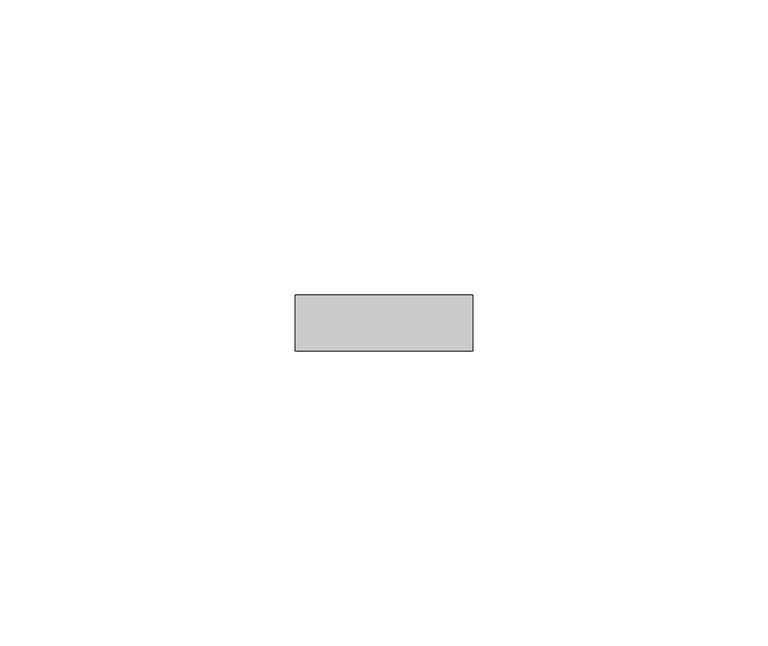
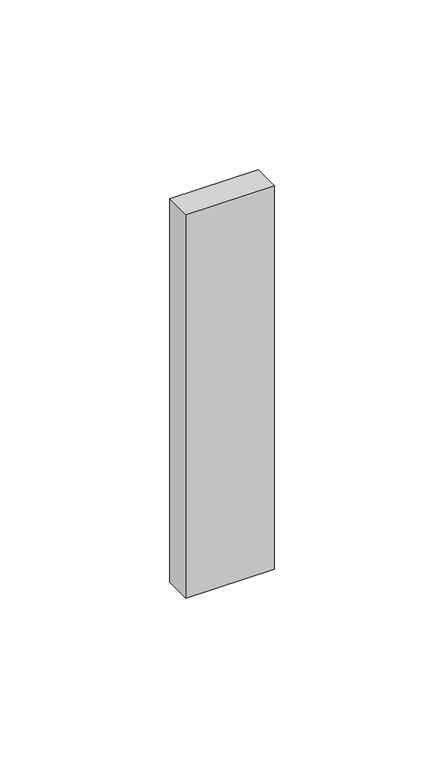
"""IFC4 building model written with IfcOpenShell, lengths in millimetres: proxy geometry, SCHWINN 22334 PULL."""

from ifc_helpers import new_model, si_unit, frame, origin, place, context, project, spatial, polyline, outline, extrude, source, transform, mapped, element, save


def generic_models_8a2f238f(model_context):
    return source(origin(), model_context, "Body", "SweptSolid", [
        extrude(outline(polyline([(30.1625, 0.0), (0.0, 0.0), (0.0, 9.525), (30.1625, 9.525), (30.1625, 0.0)])), frame((0.0, 0.0, -138.1125), z_axis=(0.0, 0.0, 1.0), x_axis=(1.0, 0.0, 0.0)), (0.0, 0.0, 1.0), 138.1125),
    ])


if __name__ == "__main__":
    model = new_model("IFC4")
    model_context = context("Model", 3, world=origin())
    ifc_project = project(units=[si_unit("LENGTHUNIT", "METRE", prefix="MILLI")], contexts=[model_context])
    site = spatial("IfcSite", under=ifc_project)
    building = spatial("IfcBuilding", under=site)
    placement = place(None, origin())
    generic_models_shape = generic_models_8a2f238f(model_context)
    element("IfcBuildingElementProxy", 1, Name="SCHWINN 22334 PULL", ObjectType="SCHWINN 22334 PULL", at=placement, inside=building, context=model_context, shape_type="MappedRepresentation", body=[
        mapped(generic_models_shape, transform((0.0, 0.0, 0.0), x_axis=(1.0, 0.0, 0.0), y_axis=(0.0, 1.0, 0.0), z_axis=(0.0, 0.0, 1.0))),
    ])
    save(model, "model.ifc")
